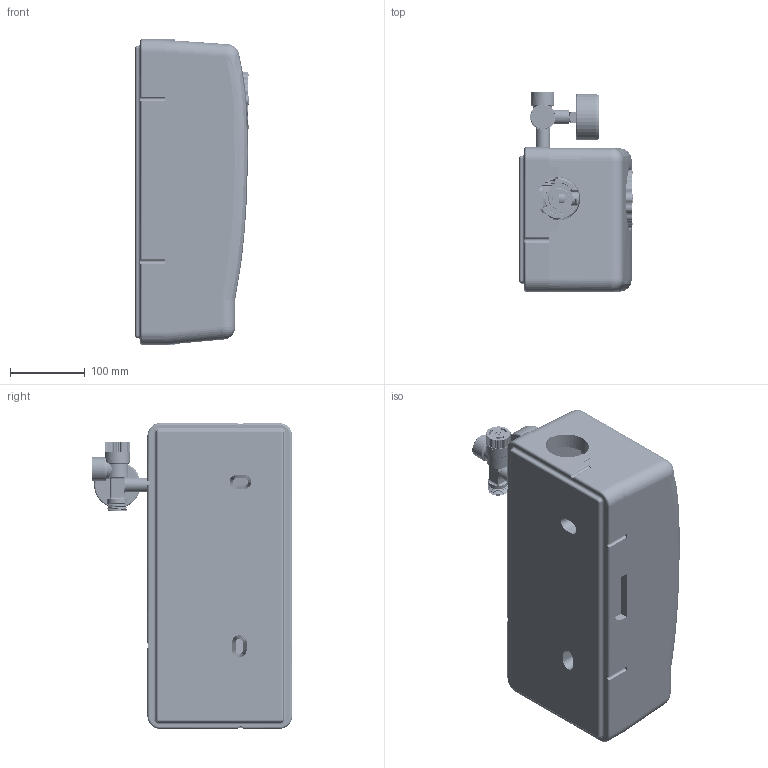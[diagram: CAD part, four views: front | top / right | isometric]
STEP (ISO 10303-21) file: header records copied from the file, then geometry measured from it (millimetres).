
FILE_DESCRIPTION (( 'STEP AP214' ), '1' );
FILE_NAME ('PrimoSol_130_1_Solarna_grupa_pompowa_ 77886_0_3D_AFRISO.STEP', '2024-10-02T10:14:49', ( '' ), ( '' ), 'SwSTEP 2.0', 'SolidWorks 2024', '' );
FILE_SCHEMA (( 'AUTOMOTIVE_DESIGN' ));
Length unit declared in the file: millimetre
Products named in the file (52): Bedruckung; Tauchh_X_FClse_05 00 410223; 0_0_0_4; STEG_4; Part9; STEG_12; Part10; 0_0_0_2; STEG_10; Insulation_part4; Part8; Base-pompa-Grundfos-UPM3-AUTO-Afriso-PL; 0_0_0; Insulation_part3; Part7_0; ZAHNSCHEIBE_906797 8400; Część3^Part7_0; STEG; STEG_7; STEG_2; ZIFFERBLATT; Ring-blau; STEG_11; Basamento-pompa-UPM3-15-70-ghisa; STEG_5; STEG_9; zifferblatt_Baugruppe_0; STEG_3; HANDRAD_05 00 410222; termom; STEGE; Part11; Part7; BLECHLASCHE; 0_0_0_3; 05 00 41 87_Bi-Th NG63 0-120_X_B0C blau RSK; 0_0_0_5; Part7_1; STEG_8; DECKGLAS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
Assembly tree (55 placements, depth 6):
  PrimoSol_130_1_Solarna_grupa_pompowa_ 77886_0_3D_AFRISO
    Part7_0
      Part7
      Part7_1
      Part7_2  x2
      Część3^Part7_0  x2
    GRUNDFOS130
      Basamento-pompa-UPM3-15-70-ghisa
      Base-pompa-Grundfos-UPM3-AUTO-Afriso-PL
    Part8
    Part7_1
    HANDRAD_05 00 410222
      HANDRAD_05 00 410222
      STEGE
      0_0_0
        0_0_0_2
          STEG
          STEG_2
          STEG_3
          0_0_0_3
            STEG_4
            STEG_5
        0_0_0_4
          STEG_6
          STEG_7
          STEG_8
          STEG_9
        0_0_0_5
          STEG_10
          STEG_11
          STEG_12
          STEG_13
      Tauchh_X_FClse_05 00 410223
      ZAHNSCHEIBE_906797 8400
      Mitnahme-Blech_05 00 410240
        BLECHLASCHE
    05 00 41 87_Bi-Th NG63 0-120_X_B0C blau RSK
      zifferblatt_Baugruppe_0
        DECKGLAS
        ZIFFERBLATT
        ZEIGER
        Bedruckung02
        Ring-blau
        Bedruckung
          Bedruckung
          Afriso Logo
    Part9
    43x33x2  x2
    Part10
    termom
    Insulation_part3
    Part11
    Insulation_part4
Bounding box: 151.6 x 267 x 408 mm (x, y, z)
Volume: 6118073.9 mm3; surface area: 929757.5 mm2
Topology: 86 solids, 90 shells, 7349 faces, 18912 edges, 11798 vertices
Faces by surface type: bspline 2179, plane 2001, cylinder 1915, torus 631, cone 481, sphere 142
Entity records: 413009 total; most frequent: CARTESIAN_POINT 247579, ORIENTED_EDGE 36462, DIRECTION 23746, EDGE_CURVE 18231, VERTEX_POINT 11408, AXIS2_PLACEMENT_3D 8753, B_SPLINE_CURVE_WITH_KNOTS 7751, EDGE_LOOP 7385
